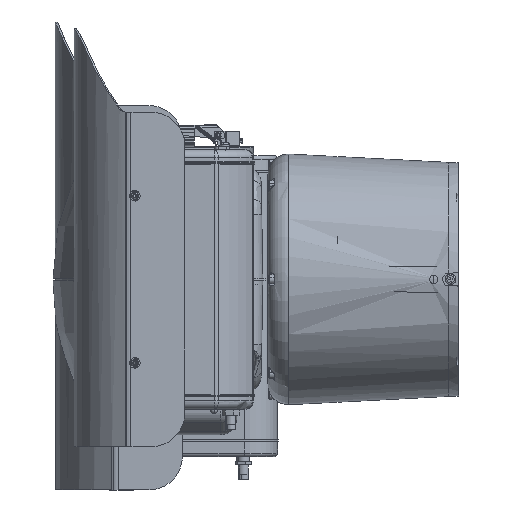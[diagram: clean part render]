
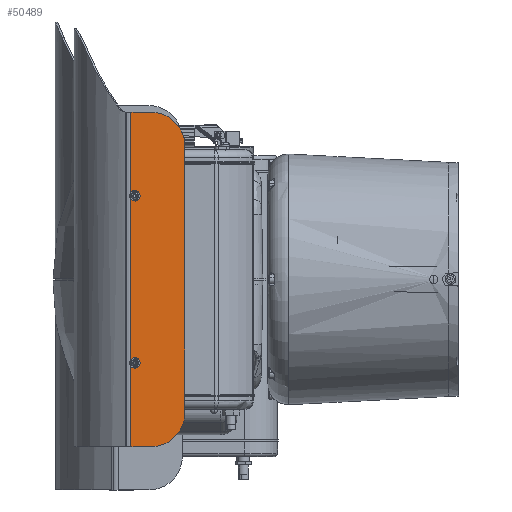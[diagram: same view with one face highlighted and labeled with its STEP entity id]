
A CAD part, left-side view. The second image highlights one B-rep face of the part: STEP entity #50489.
In plain terms, the highlighted planar face has unit normal (-1, 0, 0).
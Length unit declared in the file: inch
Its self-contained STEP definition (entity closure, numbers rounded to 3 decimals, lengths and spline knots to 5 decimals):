
#80 = VERTEX_POINT ( 'NONE', #126304 ) ;
#3424 = CIRCLE ( 'NONE', #95058, 1. ) ;
#5353 = VERTEX_POINT ( 'NONE', #112276 ) ;
#6146 = EDGE_CURVE ( 'NONE', #137427, #41897, #30633, .T. ) ;
#7051 = CARTESIAN_POINT ( 'NONE',  ( -10.289, 9.7355, 2.575 ) ) ;
#8878 = FACE_OUTER_BOUND ( 'NONE', #48598, .T. ) ;
#9525 = CARTESIAN_POINT ( 'NONE',  ( -10.289, 9.198, 4. ) ) ;
#10209 = DIRECTION ( 'NONE',  ( 1., 0., 0. ) ) ;
#12502 = EDGE_CURVE ( 'NONE', #41897, #91875, #100707, .T. ) ;
#15563 = CARTESIAN_POINT ( 'NONE',  ( -10.289, 9.673, -2.425 ) ) ;
#16250 = VERTEX_POINT ( 'NONE', #66954 ) ;
#17144 = CARTESIAN_POINT ( 'NONE',  ( -10.289, 9.673, 2.425 ) ) ;
#17209 = LINE ( 'NONE', #7051, #135256 ) ;
#17790 = CARTESIAN_POINT ( 'NONE',  ( -10.289, 9.6105, -2.575 ) ) ;
#18697 = EDGE_CURVE ( 'NONE', #120952, #104574, #135769, .T. ) ;
#19483 = AXIS2_PLACEMENT_3D ( 'NONE', #17144, #97113, #28704 ) ;
#20341 = DIRECTION ( 'NONE',  ( 0., 0., -1. ) ) ;
#20996 = DIRECTION ( 'NONE',  ( 0., 0., -1. ) ) ;
#22079 = CIRCLE ( 'NONE', #100959, 0.0625 ) ;
#22467 = ORIENTED_EDGE ( 'NONE', *, *, #31663, .T. ) ;
#26789 = DIRECTION ( 'NONE',  ( 0., 0., 1. ) ) ;
#27113 = DIRECTION ( 'NONE',  ( 0., 1., 0. ) ) ;
#28614 = CARTESIAN_POINT ( 'NONE',  ( -10.289, 9.80904, 5. ) ) ;
#28704 = DIRECTION ( 'NONE',  ( 0., 1., 0. ) ) ;
#29643 = CARTESIAN_POINT ( 'NONE',  ( -10.289, 9.673, -2.575 ) ) ;
#29709 = CARTESIAN_POINT ( 'NONE',  ( -10.289, 9.6105, 2.425 ) ) ;
#30065 = ORIENTED_EDGE ( 'NONE', *, *, #12502, .T. ) ;
#30547 = EDGE_LOOP ( 'NONE', ( #68438, #30065, #101698, #139882 ) ) ;
#30633 = CIRCLE ( 'NONE', #114269, 0.0625 ) ;
#31337 = CARTESIAN_POINT ( 'NONE',  ( -10.289, 9.873, 5. ) ) ;
#31507 = DIRECTION ( 'NONE',  ( 0., 0., 1. ) ) ;
#31663 = EDGE_CURVE ( 'NONE', #104574, #98266, #135961, .T. ) ;
#35781 = EDGE_CURVE ( 'NONE', #5353, #120952, #3424, .T. ) ;
#36784 = CARTESIAN_POINT ( 'NONE',  ( -10.289, 9.7355, -2.425 ) ) ;
#41079 = DIRECTION ( 'NONE',  ( 0., 1., 0. ) ) ;
#41897 = VERTEX_POINT ( 'NONE', #102834 ) ;
#43362 = VERTEX_POINT ( 'NONE', #84738 ) ;
#44580 = VECTOR ( 'NONE', #52721, 39.37008 ) ;
#44648 = CARTESIAN_POINT ( 'NONE',  ( -10.289, 8.198, 4. ) ) ;
#47611 = EDGE_CURVE ( 'NONE', #80, #137427, #17209, .T. ) ;
#48598 = EDGE_LOOP ( 'NONE', ( #135815, #71735, #70749, #22467, #71948, #143226 ) ) ;
#50489 = ADVANCED_FACE ( 'NONE', ( #126871, #8878, #69666 ), #101170, .F. ) ;
#50652 = CARTESIAN_POINT ( 'NONE',  ( -10.289, 8.198, -4. ) ) ;
#52721 = DIRECTION ( 'NONE',  ( 0., 0., 1. ) ) ;
#55951 = EDGE_CURVE ( 'NONE', #122924, #98266, #120670, .T. ) ;
#56457 = VECTOR ( 'NONE', #70335, 39.37008 ) ;
#57113 = CARTESIAN_POINT ( 'NONE',  ( -10.289, 9.673, 2.575 ) ) ;
#57671 = EDGE_CURVE ( 'NONE', #43362, #105294, #80641, .T. ) ;
#57701 = CARTESIAN_POINT ( 'NONE',  ( -10.289, 9.198, -4. ) ) ;
#61781 = VECTOR ( 'NONE', #116560, 39.37008 ) ;
#63671 = LINE ( 'NONE', #71714, #90549 ) ;
#66954 = CARTESIAN_POINT ( 'NONE',  ( -10.289, 9.6105, -2.425 ) ) ;
#68438 = ORIENTED_EDGE ( 'NONE', *, *, #6146, .T. ) ;
#68602 = DIRECTION ( 'NONE',  ( 0., 1., 0. ) ) ;
#69182 = DIRECTION ( 'NONE',  ( 0., 0., -1. ) ) ;
#69282 = CIRCLE ( 'NONE', #138187, 0.0625 ) ;
#69666 = FACE_BOUND ( 'NONE', #141948, .T. ) ;
#70335 = DIRECTION ( 'NONE',  ( 0., 1., 0. ) ) ;
#70749 = ORIENTED_EDGE ( 'NONE', *, *, #18697, .T. ) ;
#71714 = CARTESIAN_POINT ( 'NONE',  ( -10.289, 9.80904, -6. ) ) ;
#71735 = ORIENTED_EDGE ( 'NONE', *, *, #35781, .T. ) ;
#71948 = ORIENTED_EDGE ( 'NONE', *, *, #55951, .F. ) ;
#73817 = VECTOR ( 'NONE', #20341, 39.37008 ) ;
#78615 = CARTESIAN_POINT ( 'NONE',  ( -10.289, 9.873, -6. ) ) ;
#80641 = LINE ( 'NONE', #145887, #134305 ) ;
#84738 = CARTESIAN_POINT ( 'NONE',  ( -10.289, 9.7355, -2.575 ) ) ;
#86055 = AXIS2_PLACEMENT_3D ( 'NONE', #78615, #10209, #90199 ) ;
#87862 = CARTESIAN_POINT ( 'NONE',  ( -10.289, 9.6105, 2.575 ) ) ;
#89524 = DIRECTION ( 'NONE',  ( -1., 0., 0. ) ) ;
#89716 = EDGE_CURVE ( 'NONE', #118704, #43362, #22079, .T. ) ;
#90199 = DIRECTION ( 'NONE',  ( 0., 0., -1. ) ) ;
#90549 = VECTOR ( 'NONE', #26789, 39.37008 ) ;
#91875 = VERTEX_POINT ( 'NONE', #29709 ) ;
#92269 = LINE ( 'NONE', #105072, #61781 ) ;
#93855 = CARTESIAN_POINT ( 'NONE',  ( -10.289, 13.198, -5. ) ) ;
#95058 = AXIS2_PLACEMENT_3D ( 'NONE', #57701, #137665, #69182 ) ;
#95557 = DIRECTION ( 'NONE',  ( 1., 0., 0. ) ) ;
#95952 = ORIENTED_EDGE ( 'NONE', *, *, #128590, .T. ) ;
#97113 = DIRECTION ( 'NONE',  ( 1., 0., 0. ) ) ;
#98266 = VERTEX_POINT ( 'NONE', #146496 ) ;
#100707 = LINE ( 'NONE', #87862, #73817 ) ;
#100959 = AXIS2_PLACEMENT_3D ( 'NONE', #29643, #109546, #41079 ) ;
#101170 = PLANE ( 'NONE',  #86055 ) ;
#101203 = CIRCLE ( 'NONE', #19483, 0.0625 ) ;
#101698 = ORIENTED_EDGE ( 'NONE', *, *, #108018, .T. ) ;
#102834 = CARTESIAN_POINT ( 'NONE',  ( -10.289, 9.6105, 2.575 ) ) ;
#104574 = VERTEX_POINT ( 'NONE', #44648 ) ;
#104589 = CARTESIAN_POINT ( 'NONE',  ( -10.289, 9.7355, 2.575 ) ) ;
#105072 = CARTESIAN_POINT ( 'NONE',  ( -10.289, 9.6105, -2.425 ) ) ;
#105294 = VERTEX_POINT ( 'NONE', #36784 ) ;
#107682 = ORIENTED_EDGE ( 'NONE', *, *, #89716, .T. ) ;
#108018 = EDGE_CURVE ( 'NONE', #91875, #80, #101203, .T. ) ;
#109546 = DIRECTION ( 'NONE',  ( 1., 0., 0. ) ) ;
#109713 = CARTESIAN_POINT ( 'NONE',  ( -10.289, 8.198, -6. ) ) ;
#110041 = DIRECTION ( 'NONE',  ( 0., 0., 1. ) ) ;
#110630 = ORIENTED_EDGE ( 'NONE', *, *, #114003, .T. ) ;
#112276 = CARTESIAN_POINT ( 'NONE',  ( -10.289, 9.198, -5. ) ) ;
#114003 = EDGE_CURVE ( 'NONE', #16250, #118704, #92269, .T. ) ;
#114269 = AXIS2_PLACEMENT_3D ( 'NONE', #57113, #137052, #68602 ) ;
#114781 = ORIENTED_EDGE ( 'NONE', *, *, #57671, .T. ) ;
#116560 = DIRECTION ( 'NONE',  ( 0., 0., -1. ) ) ;
#117237 = LINE ( 'NONE', #93855, #56457 ) ;
#118704 = VERTEX_POINT ( 'NONE', #17790 ) ;
#120670 = LINE ( 'NONE', #31337, #147532 ) ;
#120952 = VERTEX_POINT ( 'NONE', #50652 ) ;
#122752 = DIRECTION ( 'NONE',  ( 0., -1., 0. ) ) ;
#122924 = VERTEX_POINT ( 'NONE', #28614 ) ;
#126304 = CARTESIAN_POINT ( 'NONE',  ( -10.289, 9.7355, 2.425 ) ) ;
#126871 = FACE_BOUND ( 'NONE', #30547, .T. ) ;
#128590 = EDGE_CURVE ( 'NONE', #105294, #16250, #69282, .T. ) ;
#130044 = AXIS2_PLACEMENT_3D ( 'NONE', #9525, #89524, #20996 ) ;
#132855 = VERTEX_POINT ( 'NONE', #148045 ) ;
#133812 = EDGE_CURVE ( 'NONE', #5353, #132855, #117237, .T. ) ;
#134305 = VECTOR ( 'NONE', #31507, 39.37008 ) ;
#135256 = VECTOR ( 'NONE', #110041, 39.37008 ) ;
#135769 = LINE ( 'NONE', #109713, #44580 ) ;
#135815 = ORIENTED_EDGE ( 'NONE', *, *, #133812, .F. ) ;
#135961 = CIRCLE ( 'NONE', #130044, 1. ) ;
#137052 = DIRECTION ( 'NONE',  ( 1., 0., 0. ) ) ;
#137427 = VERTEX_POINT ( 'NONE', #104589 ) ;
#137665 = DIRECTION ( 'NONE',  ( -1., 0., 0. ) ) ;
#138187 = AXIS2_PLACEMENT_3D ( 'NONE', #15563, #95557, #27113 ) ;
#139882 = ORIENTED_EDGE ( 'NONE', *, *, #47611, .T. ) ;
#141831 = EDGE_CURVE ( 'NONE', #132855, #122924, #63671, .T. ) ;
#141948 = EDGE_LOOP ( 'NONE', ( #95952, #110630, #107682, #114781 ) ) ;
#143226 = ORIENTED_EDGE ( 'NONE', *, *, #141831, .F. ) ;
#145887 = CARTESIAN_POINT ( 'NONE',  ( -10.289, 9.7355, -2.425 ) ) ;
#146496 = CARTESIAN_POINT ( 'NONE',  ( -10.289, 9.198, 5. ) ) ;
#147532 = VECTOR ( 'NONE', #122752, 39.37008 ) ;
#148045 = CARTESIAN_POINT ( 'NONE',  ( -10.289, 9.80904, -5. ) ) ;
